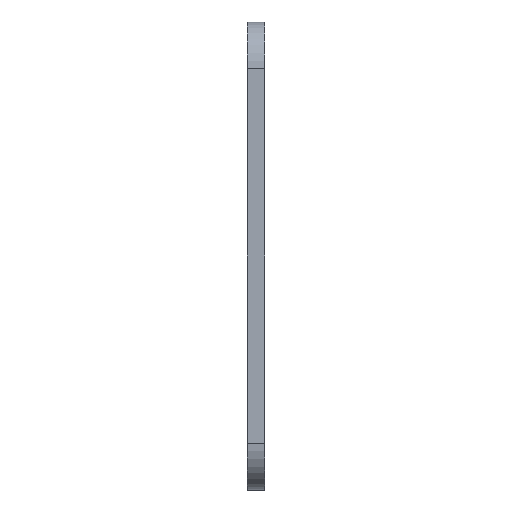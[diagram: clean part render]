
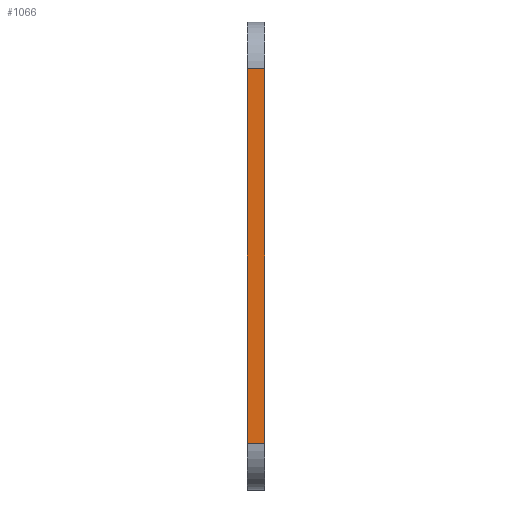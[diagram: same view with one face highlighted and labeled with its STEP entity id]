
A CAD part, left-side view. The second image highlights one B-rep face of the part: STEP entity #1066.
In plain terms, the highlighted planar face has unit normal (-1, 0, 0).
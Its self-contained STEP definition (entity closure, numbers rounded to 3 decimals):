
#75=PLANE('',#1134);
#90=FACE_OUTER_BOUND('',#142,.T.);
#142=EDGE_LOOP('',(#731,#732,#733,#734));
#254=LINE('',#1600,#328);
#255=LINE('',#1603,#329);
#256=LINE('',#1605,#330);
#257=LINE('',#1606,#331);
#328=VECTOR('',#1268,10.);
#329=VECTOR('',#1271,10.);
#330=VECTOR('',#1272,10.);
#331=VECTOR('',#1273,10.);
#477=VERTEX_POINT('',#1593);
#480=VERTEX_POINT('',#1598);
#481=VERTEX_POINT('',#1602);
#482=VERTEX_POINT('',#1604);
#580=EDGE_CURVE('',#480,#477,#254,.T.);
#581=EDGE_CURVE('',#481,#480,#255,.T.);
#582=EDGE_CURVE('',#482,#481,#256,.T.);
#583=EDGE_CURVE('',#477,#482,#257,.T.);
#731=ORIENTED_EDGE('',*,*,#580,.F.);
#732=ORIENTED_EDGE('',*,*,#581,.F.);
#733=ORIENTED_EDGE('',*,*,#582,.F.);
#734=ORIENTED_EDGE('',*,*,#583,.F.);
#1066=ADVANCED_FACE('',(#90),#75,.T.);
#1134=AXIS2_PLACEMENT_3D('',#1601,#1269,#1270);
#1268=DIRECTION('',(0.,-1.,0.));
#1269=DIRECTION('center_axis',(-1.,0.,0.));
#1270=DIRECTION('ref_axis',(0.,0.,-1.));
#1271=DIRECTION('',(0.,0.,1.));
#1272=DIRECTION('',(0.,1.,0.));
#1273=DIRECTION('',(0.,0.,-1.));
#1593=CARTESIAN_POINT('',(-40.,3.,32.));
#1598=CARTESIAN_POINT('',(-40.,6.,32.));
#1600=CARTESIAN_POINT('',(-40.,6.,32.));
#1601=CARTESIAN_POINT('Origin',(-40.,6.,40.));
#1602=CARTESIAN_POINT('',(-40.,6.,-32.));
#1603=CARTESIAN_POINT('',(-40.,6.,-40.));
#1604=CARTESIAN_POINT('',(-40.,3.,-32.));
#1605=CARTESIAN_POINT('',(-40.,6.,-32.));
#1606=CARTESIAN_POINT('',(-40.,3.,-40.));
